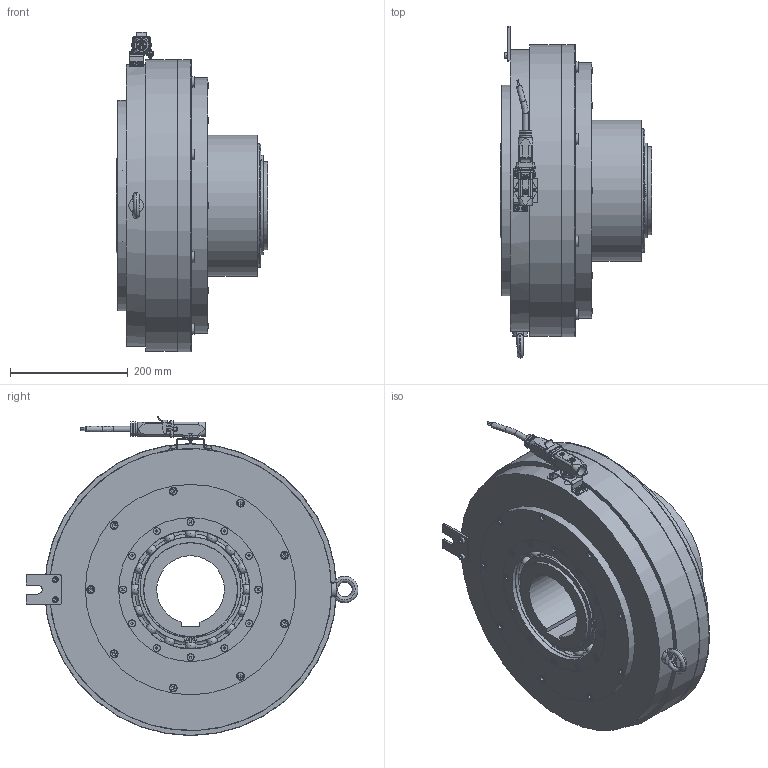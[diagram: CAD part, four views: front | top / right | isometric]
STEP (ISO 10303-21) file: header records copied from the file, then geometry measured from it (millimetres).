
FILE_DESCRIPTION(/* description */ (''),/* implementation_level */ '2;1');
FILE_NAME(/* name */ 'X:\INVENTOR\DISEGNI\08_Freni_Friz_Elettmag_Monodisco\08_26 EMSL_DF\EMSL_DF STEP\08_26_500_41 EMSL500_DF-R_S@STEP.stp',/* time_stamp */ '2018-04-24T09:56:25+02:00',/* author */ ('stefano'),/* organization */ (''),/* preprocessor_version */ 'ST-DEVELOPER v17',/* originating_system */ 'Autodesk Inventor 2018',/* authorisation */ '');
FILE_SCHEMA (('AUTOMOTIVE_DESIGN { 1 0 10303 214 3 1 1 }'));
Products named in the file (1): 08_26_500_41 EMSL500_DF-R - Spina_Substitute_1
Bounding box: 258 x 564.8 x 543.28 mm (x, y, z)
Volume: 22085306.6 mm3; surface area: 2367133 mm2
Topology: 2 solids, 2 shells, 2447 faces, 7401 edges, 5002 vertices
Faces by surface type: plane 1308, cylinder 661, torus 217, cone 156, sphere 80, bspline 25
Full cylindrical faces by diameter (mm): 0.35 x1, 0.491 x1, 0.753 x1, 0.95 x1, 0.986 x1, 1.05 x1, 2.5 x2, 3 x4, 3.2 x1, 3.25 x2, 3.59 x3, 4 x9, 4.675 x2, 4.8 x2, 5 x20, 5.25 x4, 5.5 x2, 6 x6, 6.2 x1, 7 x1, 7.9 x2, 8.2 x2, 8.376 x12, 8.5 x4, 9.5 x2, 10 x2, 11.34 x12, 12 x12, 13 x9, 13.5 x11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
Entity records: 100676 total; most frequent: CARTESIAN_POINT 31524, ORIENTED_EDGE 14390, DIRECTION 13642, EDGE_CURVE 7195, AXIS2_PLACEMENT_3D 5125, VERTEX_POINT 5002, LINE 3392, VECTOR 3392
